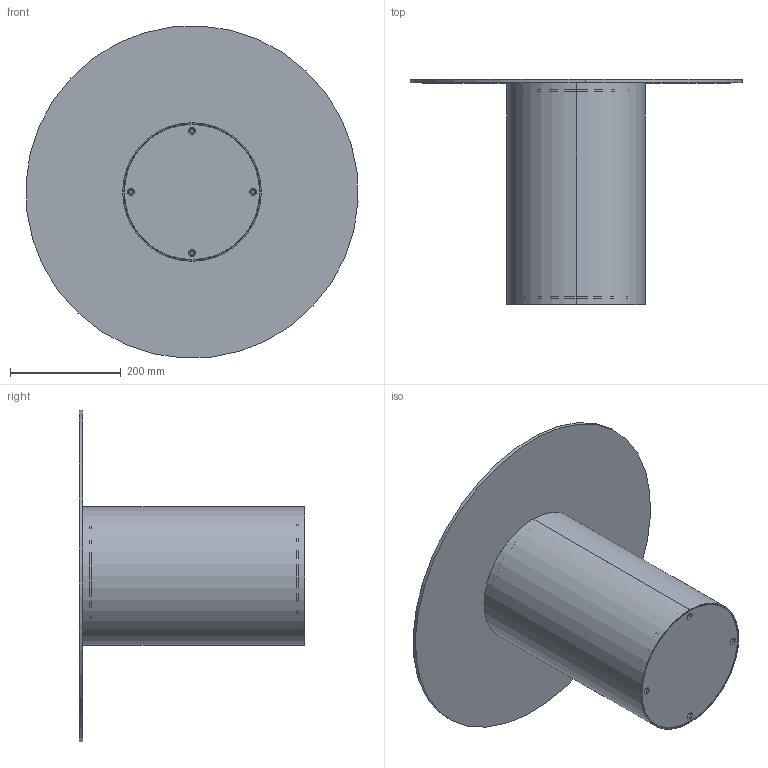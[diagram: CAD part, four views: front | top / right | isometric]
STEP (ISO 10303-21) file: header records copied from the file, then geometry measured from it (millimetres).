
FILE_DESCRIPTION (( 'STEP AP203' ), '1' );
FILE_NAME ('CL01G.STEP', '2024-08-06T10:09:52', ( '' ), ( '' ), 'SwSTEP 2.0', 'SolidWorks 2022', '' );
FILE_SCHEMA (( 'CONFIG_CONTROL_DESIGN' ));
Length unit declared in the file: millimetre
Products named in the file (12): CLB2000000_06-00-traversino per piano cilindro low D.25cm; CL01G; CXXCRXX-00-Piani Rotondi in Cristallo CON PIASTRA_C01P PIANO CRISTALLO D.60cm; C1XCRMXX-00-piani Rotondi Cristallo_C01 D.60cm; GRANO M8_barra; CLB2000000_05-00-ring per piano cilindro low D.25cm; nut_M8_M8; CLB2000000-01-CILINDRO LOW D.25cm BASE GREZZA; CLB2000000_04-00-ring per zavorra cilindro low D.25cm; P0000006-00-PIASTRA D.150mm X PIANI CER_CRI_MARMO_PIASTRA; CLB2000000_02-00-Fusto centrale D.25cm; CLB2000000_03-01-Zavorra cilindro low D.25cm
Assembly tree (11 placements, depth 3):
  CL01G
    CLB2000000-01-CILINDRO LOW D.25cm BASE GREZZA
      CLB2000000_02-00-Fusto centrale D.25cm
      CLB2000000_04-00-ring per zavorra cilindro low D.25cm
      CLB2000000_05-00-ring per piano cilindro low D.25cm
      CLB2000000_06-00-traversino per piano cilindro low D.25cm
      nut_M8_M8
      CLB2000000_03-01-Zavorra cilindro low D.25cm
    CXXCRXX-00-Piani Rotondi in Cristallo CON PIASTRA_C01P PIANO CRISTALLO D.60cm
      C1XCRMXX-00-piani Rotondi Cristallo_C01 D.60cm
      P0000006-00-PIASTRA D.150mm X PIANI CER_CRI_MARMO_PIASTRA
    GRANO M8_barra
Bounding box: 599.01 x 406 x 599.01 mm (x, y, z)
Volume: 3063049 mm3; surface area: 1440700.1 mm2
Topology: 9 solids, 9 shells, 116 faces, 278 edges, 180 vertices
Faces by surface type: cylinder 64, plane 32, cone 20
Entity records: 4880 total; most frequent: CARTESIAN_POINT 718, DIRECTION 674, ORIENTED_EDGE 556, AXIS2_PLACEMENT_3D 280, EDGE_CURVE 278, VERTEX_POINT 180, EDGE_LOOP 150, CIRCLE 148
